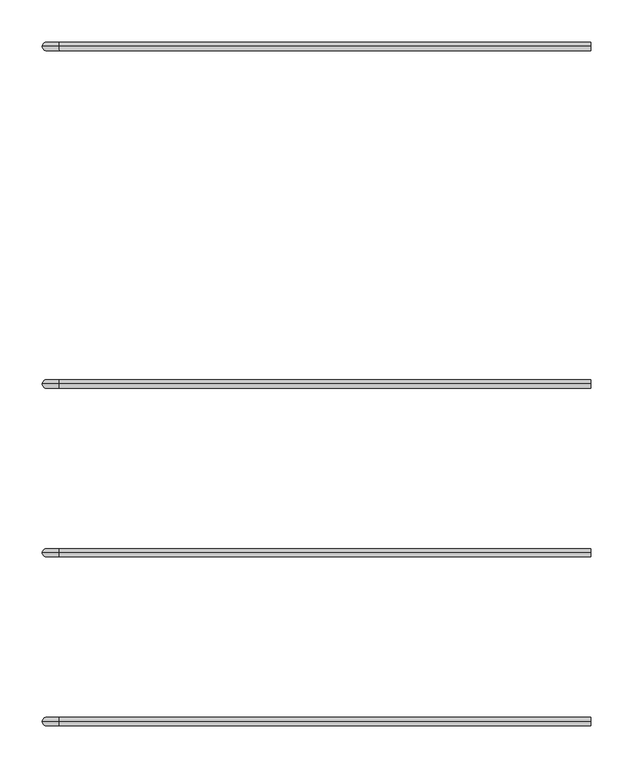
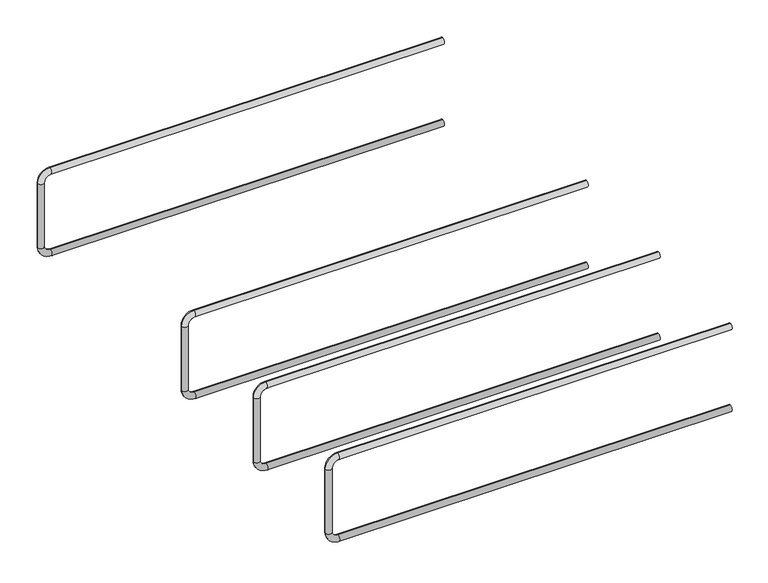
"""IFC4 building model written with IfcOpenShell, lengths in millimetres: fastener geometry, ACINOXplus_Typenreihe_Ux-Ox : UD+ S4."""

from ifc_helpers import new_model, si_unit, point, frame, origin, place, context, project, spatial, circle_curve, ellipse_curve, trimmed, source, transform, mapped, element, save
from ifc_brep_helpers import plane_surface, cylinder_surface, revolved_surface, advanced_brep


def fastener_9384deeb(model_context):
    return source(origin(), model_context, "Body", "AdvancedBrep", [
        advanced_brep(
        [(440.0, 0.0, -25.5), (440.0, 0.0, -35.5), (-190.0, 0.0, -25.5), (-190.0, 0.0, -35.5), (-200.0, 0.0, -45.5), (-210.0, 0.0, -45.5), (-210.0, 0.0, -154.5), (-200.0, 0.0, -154.5), (-190.0, 0.0, -164.5), (-190.0, 0.0, -174.5), (440.0, 0.0, -174.5), (440.0, 0.0, -164.5)],
        [
            (0, 1, circle_curve(frame((440.0, 0.0, -30.5), z_axis=(1.0, 0.0, 0.0), x_axis=(0.0, 0.0, -1.0)), 5.0)),
            (1, 0, circle_curve(frame((440.0, 0.0, -30.5), z_axis=(1.0, 0.0, 0.0), x_axis=(0.0, 0.0, -1.0)), 5.0)),
            (0, 2),
            (2, 3, circle_curve(frame((-190.0, 0.0, -30.5), z_axis=(1.0, 0.0, 0.0), x_axis=(0.0, 0.0, -1.0)), 5.0)),
            (3, 1),
            (3, 2, circle_curve(frame((-190.0, 0.0, -30.5), z_axis=(1.0, 0.0, 0.0), x_axis=(0.0, 0.0, -1.0)), 5.0)),
            (4, 3, circle_curve(frame((-190.0, 0.0, -45.5), z_axis=(0.0, 1.0, 0.0), x_axis=(0.0, 0.0, 1.0)), 10.0)),
            (2, 5, circle_curve(frame((-190.0, 0.0, -45.5), z_axis=(0.0, -1.0, 0.0), x_axis=(0.0, 0.0, 1.0)), 20.0)),
            (5, 4, circle_curve(frame((-205.0, 0.0, -45.5), z_axis=(0.0, 0.0, 1.0), x_axis=(1.0, 0.0, 0.0)), 5.0)),
            (4, 5, circle_curve(frame((-205.0, 0.0, -45.5), z_axis=(0.0, 0.0, 1.0), x_axis=(1.0, 0.0, 0.0)), 5.0)),
            (5, 6),
            (6, 7, circle_curve(frame((-205.0, 0.0, -154.5), z_axis=(0.0, 0.0, 1.0), x_axis=(1.0, 0.0, 0.0)), 5.0)),
            (7, 4),
            (7, 6, circle_curve(frame((-205.0, 0.0, -154.5), z_axis=(0.0, 0.0, 1.0), x_axis=(1.0, 0.0, 0.0)), 5.0)),
            (8, 7, circle_curve(frame((-190.0, 0.0, -154.5), z_axis=(0.0, 1.0, 0.0), x_axis=(-1.0, 0.0, 0.0)), 10.0)),
            (6, 9, circle_curve(frame((-190.0, 0.0, -154.5), z_axis=(0.0, -1.0, 0.0), x_axis=(-1.0, 0.0, 0.0)), 20.0)),
            (9, 8, circle_curve(frame((-190.0, 0.0, -169.5), z_axis=(-1.0, 0.0, 0.0), x_axis=(0.0, 0.0, 1.0)), 5.0)),
            (8, 9, circle_curve(frame((-190.0, 0.0, -169.5), z_axis=(-1.0, 0.0, 0.0), x_axis=(0.0, 0.0, 1.0)), 5.0)),
            (10, 11, circle_curve(frame((440.0, 0.0, -169.5), z_axis=(1.0, 0.0, 0.0), x_axis=(0.0, 0.0, 1.0)), 5.0)),
            (11, 10, circle_curve(frame((440.0, 0.0, -169.5), z_axis=(1.0, 0.0, 0.0), x_axis=(0.0, 0.0, 1.0)), 5.0)),
            (9, 10),
            (11, 8),
        ],
        [
            plane_surface(frame((440.0, 0.0, -30.5), z_axis=(1.0, 0.0, 0.0), x_axis=(0.0, -1.0, 0.0))),
            cylinder_surface(frame((440.0, 0.0, -30.5), z_axis=(1.0, 0.0, 0.0), x_axis=(0.0, 0.0, -1.0)), 5.0),
            revolved_surface(trimmed(ellipse_curve(frame((-190.0, 0.0, -30.5), z_axis=(1.0, 0.0, 0.0), x_axis=(0.0, 0.0, -1.0)), 5.0, 5.0), [point((-190.0, 0.0, -25.5))], [point((-190.0, 0.0, -35.5))], True, "CARTESIAN"), (-190.0, 0.0, -45.5), (0.0, -1.0, 0.0)),
            revolved_surface(trimmed(ellipse_curve(frame((-190.0, 0.0, -30.5), z_axis=(1.0, 0.0, 0.0), x_axis=(0.0, 0.0, -1.0)), 5.0, 5.0), [point((-190.0, 0.0, -35.5))], [point((-190.0, 0.0, -25.5))], True, "CARTESIAN"), (-190.0, 0.0, -45.5), (0.0, -1.0, 0.0)),
            cylinder_surface(frame((-205.0, 0.0, -45.5), z_axis=(0.0, 0.0, 1.0), x_axis=(1.0, 0.0, 0.0)), 5.0),
            revolved_surface(trimmed(ellipse_curve(frame((-205.0, 0.0, -154.5), z_axis=(0.0, 0.0, 1.0), x_axis=(1.0, 0.0, 0.0)), 5.0, 5.0), [point((-210.0, 0.0, -154.5))], [point((-200.0, 0.0, -154.5))], True, "CARTESIAN"), (-190.0, 0.0, -154.5), (0.0, -1.0, 0.0)),
            revolved_surface(trimmed(ellipse_curve(frame((-205.0, 0.0, -154.5), z_axis=(0.0, 0.0, 1.0), x_axis=(1.0, 0.0, 0.0)), 5.0, 5.0), [point((-200.0, 0.0, -154.5))], [point((-210.0, 0.0, -154.5))], True, "CARTESIAN"), (-190.0, 0.0, -154.5), (0.0, -1.0, 0.0)),
            plane_surface(frame((440.0, 0.0, -169.5), z_axis=(1.0, 0.0, 0.0), x_axis=(0.0, -1.0, 0.0))),
            cylinder_surface(frame((-190.0, 0.0, -169.5), z_axis=(-1.0, 0.0, 0.0), x_axis=(0.0, 0.0, 1.0)), 5.0),
        ],
        [
            (0, [[1, 2]]),
            (1, [[-1, 3, 4, 5]]),
            (1, [[-2, -5, 6, -3]]),
            (2, [[7, -4, 8, 9]]),
            (3, [[-8, -6, -7, 10]]),
            (4, [[-9, 11, 12, 13]]),
            (4, [[-10, -13, 14, -11]]),
            (5, [[15, -12, 16, 17]]),
            (6, [[-16, -14, -15, 18]]),
            (7, [[19, 20]]),
            (8, [[-17, 21, -20, 22]]),
            (8, [[-18, -22, -19, -21]]),
        ],
    ),
        advanced_brep(
        [(440.0, -200.0, -25.5), (440.0, -200.0, -35.5), (-190.0, -200.0, -25.5), (-190.0, -200.0, -35.5), (-200.0, -200.0, -45.5), (-210.0, -200.0, -45.5), (-210.0, -200.0, -154.5), (-200.0, -200.0, -154.5), (-190.0, -200.0, -164.5), (-190.0, -200.0, -174.5), (440.0, -200.0, -174.5), (440.0, -200.0, -164.5)],
        [
            (0, 1, circle_curve(frame((440.0, -200.0, -30.5), z_axis=(1.0, 0.0, 0.0), x_axis=(0.0, 0.0, -1.0)), 5.0)),
            (1, 0, circle_curve(frame((440.0, -200.0, -30.5), z_axis=(1.0, 0.0, 0.0), x_axis=(0.0, 0.0, -1.0)), 5.0)),
            (0, 2),
            (2, 3, circle_curve(frame((-190.0, -200.0, -30.5), z_axis=(1.0, 0.0, 0.0), x_axis=(0.0, 0.0, -1.0)), 5.0)),
            (3, 1),
            (3, 2, circle_curve(frame((-190.0, -200.0, -30.5), z_axis=(1.0, 0.0, 0.0), x_axis=(0.0, 0.0, -1.0)), 5.0)),
            (4, 3, circle_curve(frame((-190.0, -200.0, -45.5), z_axis=(0.0, 1.0, 0.0), x_axis=(0.0, 0.0, 1.0)), 10.0)),
            (2, 5, circle_curve(frame((-190.0, -200.0, -45.5), z_axis=(0.0, -1.0, 0.0), x_axis=(0.0, 0.0, 1.0)), 20.0)),
            (5, 4, circle_curve(frame((-205.0, -200.0, -45.5), z_axis=(0.0, 0.0, 1.0), x_axis=(1.0, 0.0, 0.0)), 5.0)),
            (4, 5, circle_curve(frame((-205.0, -200.0, -45.5), z_axis=(0.0, 0.0, 1.0), x_axis=(1.0, 0.0, 0.0)), 5.0)),
            (5, 6),
            (6, 7, circle_curve(frame((-205.0, -200.0, -154.5), z_axis=(0.0, 0.0, 1.0), x_axis=(1.0, 0.0, 0.0)), 5.0)),
            (7, 4),
            (7, 6, circle_curve(frame((-205.0, -200.0, -154.5), z_axis=(0.0, 0.0, 1.0), x_axis=(1.0, 0.0, 0.0)), 5.0)),
            (8, 7, circle_curve(frame((-190.0, -200.0, -154.5), z_axis=(0.0, 1.0, 0.0), x_axis=(-1.0, 0.0, 0.0)), 10.0)),
            (6, 9, circle_curve(frame((-190.0, -200.0, -154.5), z_axis=(0.0, -1.0, 0.0), x_axis=(-1.0, 0.0, 0.0)), 20.0)),
            (9, 8, circle_curve(frame((-190.0, -200.0, -169.5), z_axis=(-1.0, 0.0, 0.0), x_axis=(0.0, 0.0, 1.0)), 5.0)),
            (8, 9, circle_curve(frame((-190.0, -200.0, -169.5), z_axis=(-1.0, 0.0, 0.0), x_axis=(0.0, 0.0, 1.0)), 5.0)),
            (10, 11, circle_curve(frame((440.0, -200.0, -169.5), z_axis=(1.0, 0.0, 0.0), x_axis=(0.0, 0.0, 1.0)), 5.0)),
            (11, 10, circle_curve(frame((440.0, -200.0, -169.5), z_axis=(1.0, 0.0, 0.0), x_axis=(0.0, 0.0, 1.0)), 5.0)),
            (9, 10),
            (11, 8),
        ],
        [
            plane_surface(frame((440.0, -200.0, -30.5), z_axis=(1.0, 0.0, 0.0), x_axis=(0.0, -1.0, 0.0))),
            cylinder_surface(frame((440.0, -200.0, -30.5), z_axis=(1.0, 0.0, 0.0), x_axis=(0.0, 0.0, -1.0)), 5.0),
            revolved_surface(trimmed(ellipse_curve(frame((-190.0, -200.0, -30.5), z_axis=(1.0, 0.0, 0.0), x_axis=(0.0, 0.0, -1.0)), 5.0, 5.0), [point((-190.0, -200.0, -25.5))], [point((-190.0, -200.0, -35.5))], True, "CARTESIAN"), (-190.0, -200.0, -45.5), (0.0, -1.0, 0.0)),
            revolved_surface(trimmed(ellipse_curve(frame((-190.0, -200.0, -30.5), z_axis=(1.0, 0.0, 0.0), x_axis=(0.0, 0.0, -1.0)), 5.0, 5.0), [point((-190.0, -200.0, -35.5))], [point((-190.0, -200.0, -25.5))], True, "CARTESIAN"), (-190.0, -200.0, -45.5), (0.0, -1.0, 0.0)),
            cylinder_surface(frame((-205.0, -200.0, -45.5), z_axis=(0.0, 0.0, 1.0), x_axis=(1.0, 0.0, 0.0)), 5.0),
            revolved_surface(trimmed(ellipse_curve(frame((-205.0, -200.0, -154.5), z_axis=(0.0, 0.0, 1.0), x_axis=(1.0, 0.0, 0.0)), 5.0, 5.0), [point((-210.0, -200.0, -154.5))], [point((-200.0, -200.0, -154.5))], True, "CARTESIAN"), (-190.0, -200.0, -154.5), (0.0, -1.0, 0.0)),
            revolved_surface(trimmed(ellipse_curve(frame((-205.0, -200.0, -154.5), z_axis=(0.0, 0.0, 1.0), x_axis=(1.0, 0.0, 0.0)), 5.0, 5.0), [point((-200.0, -200.0, -154.5))], [point((-210.0, -200.0, -154.5))], True, "CARTESIAN"), (-190.0, -200.0, -154.5), (0.0, -1.0, 0.0)),
            plane_surface(frame((440.0, -200.0, -169.5), z_axis=(1.0, 0.0, 0.0), x_axis=(0.0, -1.0, 0.0))),
            cylinder_surface(frame((-190.0, -200.0, -169.5), z_axis=(-1.0, 0.0, 0.0), x_axis=(0.0, 0.0, 1.0)), 5.0),
        ],
        [
            (0, [[1, 2]]),
            (1, [[-1, 3, 4, 5]]),
            (1, [[-2, -5, 6, -3]]),
            (2, [[7, -4, 8, 9]]),
            (3, [[-8, -6, -7, 10]]),
            (4, [[-9, 11, 12, 13]]),
            (4, [[-10, -13, 14, -11]]),
            (5, [[15, -12, 16, 17]]),
            (6, [[-16, -14, -15, 18]]),
            (7, [[19, 20]]),
            (8, [[-17, 21, -20, 22]]),
            (8, [[-18, -22, -19, -21]]),
        ],
    ),
        advanced_brep(
        [(440.0, 400.0, -25.5), (440.0, 400.0, -35.5), (-190.0, 400.0, -25.5), (-190.0, 400.0, -35.5), (-200.0, 400.0, -45.5), (-210.0, 400.0, -45.5), (-210.0, 400.0, -154.5), (-200.0, 400.0, -154.5), (-190.0, 400.0, -164.5), (-190.0, 400.0, -174.5), (440.0, 400.0, -174.5), (440.0, 400.0, -164.5)],
        [
            (0, 1, circle_curve(frame((440.0, 400.0, -30.5), z_axis=(1.0, 0.0, 0.0), x_axis=(0.0, 0.0, -1.0)), 5.0)),
            (1, 0, circle_curve(frame((440.0, 400.0, -30.5), z_axis=(1.0, 0.0, 0.0), x_axis=(0.0, 0.0, -1.0)), 5.0)),
            (0, 2),
            (2, 3, circle_curve(frame((-190.0, 400.0, -30.5), z_axis=(1.0, 0.0, 0.0), x_axis=(0.0, 0.0, -1.0)), 5.0)),
            (3, 1),
            (3, 2, circle_curve(frame((-190.0, 400.0, -30.5), z_axis=(1.0, 0.0, 0.0), x_axis=(0.0, 0.0, -1.0)), 5.0)),
            (4, 3, circle_curve(frame((-190.0, 400.0, -45.5), z_axis=(0.0, 1.0, 0.0), x_axis=(0.0, 0.0, 1.0)), 10.0)),
            (2, 5, circle_curve(frame((-190.0, 400.0, -45.5), z_axis=(0.0, -1.0, 0.0), x_axis=(0.0, 0.0, 1.0)), 20.0)),
            (5, 4, circle_curve(frame((-205.0, 400.0, -45.5), z_axis=(0.0, 0.0, 1.0), x_axis=(1.0, 0.0, 0.0)), 5.0)),
            (4, 5, circle_curve(frame((-205.0, 400.0, -45.5), z_axis=(0.0, 0.0, 1.0), x_axis=(1.0, 0.0, 0.0)), 5.0)),
            (5, 6),
            (6, 7, circle_curve(frame((-205.0, 400.0, -154.5), z_axis=(0.0, 0.0, 1.0), x_axis=(1.0, 0.0, 0.0)), 5.0)),
            (7, 4),
            (7, 6, circle_curve(frame((-205.0, 400.0, -154.5), z_axis=(0.0, 0.0, 1.0), x_axis=(1.0, 0.0, 0.0)), 5.0)),
            (8, 7, circle_curve(frame((-190.0, 400.0, -154.5), z_axis=(0.0, 1.0, 0.0), x_axis=(-1.0, 0.0, 0.0)), 10.0)),
            (6, 9, circle_curve(frame((-190.0, 400.0, -154.5), z_axis=(0.0, -1.0, 0.0), x_axis=(-1.0, 0.0, 0.0)), 20.0)),
            (9, 8, circle_curve(frame((-190.0, 400.0, -169.5), z_axis=(-1.0, 0.0, 0.0), x_axis=(0.0, 0.0, 1.0)), 5.0)),
            (8, 9, circle_curve(frame((-190.0, 400.0, -169.5), z_axis=(-1.0, 0.0, 0.0), x_axis=(0.0, 0.0, 1.0)), 5.0)),
            (10, 11, circle_curve(frame((440.0, 400.0, -169.5), z_axis=(1.0, 0.0, 0.0), x_axis=(0.0, 0.0, 1.0)), 5.0)),
            (11, 10, circle_curve(frame((440.0, 400.0, -169.5), z_axis=(1.0, 0.0, 0.0), x_axis=(0.0, 0.0, 1.0)), 5.0)),
            (9, 10),
            (11, 8),
        ],
        [
            plane_surface(frame((440.0, 400.0, -30.5), z_axis=(1.0, 0.0, 0.0), x_axis=(0.0, -1.0, 0.0))),
            cylinder_surface(frame((440.0, 400.0, -30.5), z_axis=(1.0, 0.0, 0.0), x_axis=(0.0, 0.0, -1.0)), 5.0),
            revolved_surface(trimmed(ellipse_curve(frame((-190.0, 400.0, -30.5), z_axis=(1.0, 0.0, 0.0), x_axis=(0.0, 0.0, -1.0)), 5.0, 5.0), [point((-190.0, 400.0, -25.5))], [point((-190.0, 400.0, -35.5))], True, "CARTESIAN"), (-190.0, 400.0, -45.5), (0.0, -1.0, 0.0)),
            revolved_surface(trimmed(ellipse_curve(frame((-190.0, 400.0, -30.5), z_axis=(1.0, 0.0, 0.0), x_axis=(0.0, 0.0, -1.0)), 5.0, 5.0), [point((-190.0, 400.0, -35.5))], [point((-190.0, 400.0, -25.5))], True, "CARTESIAN"), (-190.0, 400.0, -45.5), (0.0, -1.0, 0.0)),
            cylinder_surface(frame((-205.0, 400.0, -45.5), z_axis=(0.0, 0.0, 1.0), x_axis=(1.0, 0.0, 0.0)), 5.0),
            revolved_surface(trimmed(ellipse_curve(frame((-205.0, 400.0, -154.5), z_axis=(0.0, 0.0, 1.0), x_axis=(1.0, 0.0, 0.0)), 5.0, 5.0), [point((-210.0, 400.0, -154.5))], [point((-200.0, 400.0, -154.5))], True, "CARTESIAN"), (-190.0, 400.0, -154.5), (0.0, -1.0, 0.0)),
            revolved_surface(trimmed(ellipse_curve(frame((-205.0, 400.0, -154.5), z_axis=(0.0, 0.0, 1.0), x_axis=(1.0, 0.0, 0.0)), 5.0, 5.0), [point((-200.0, 400.0, -154.5))], [point((-210.0, 400.0, -154.5))], True, "CARTESIAN"), (-190.0, 400.0, -154.5), (0.0, -1.0, 0.0)),
            plane_surface(frame((440.0, 400.0, -169.5), z_axis=(1.0, 0.0, 0.0), x_axis=(0.0, -1.0, 0.0))),
            cylinder_surface(frame((-190.0, 400.0, -169.5), z_axis=(-1.0, 0.0, 0.0), x_axis=(0.0, 0.0, 1.0)), 5.0),
        ],
        [
            (0, [[1, 2]]),
            (1, [[-1, 3, 4, 5]]),
            (1, [[-2, -5, 6, -3]]),
            (2, [[7, -4, 8, 9]]),
            (3, [[-8, -6, -7, 10]]),
            (4, [[-9, 11, 12, 13]]),
            (4, [[-10, -13, 14, -11]]),
            (5, [[15, -12, 16, 17]]),
            (6, [[-16, -14, -15, 18]]),
            (7, [[19, 20]]),
            (8, [[-17, 21, -20, 22]]),
            (8, [[-18, -22, -19, -21]]),
        ],
    ),
        advanced_brep(
        [(440.0, -400.0, -25.5), (440.0, -400.0, -35.5), (-190.0, -400.0, -25.5), (-190.0, -400.0, -35.5), (-200.0, -400.0, -45.5), (-210.0, -400.0, -45.5), (-210.0, -400.0, -154.5), (-200.0, -400.0, -154.5), (-190.0, -400.0, -164.5), (-190.0, -400.0, -174.5), (440.0, -400.0, -174.5), (440.0, -400.0, -164.5)],
        [
            (0, 1, circle_curve(frame((440.0, -400.0, -30.5), z_axis=(1.0, 0.0, 0.0), x_axis=(0.0, 0.0, -1.0)), 5.0)),
            (1, 0, circle_curve(frame((440.0, -400.0, -30.5), z_axis=(1.0, 0.0, 0.0), x_axis=(0.0, 0.0, -1.0)), 5.0)),
            (0, 2),
            (2, 3, circle_curve(frame((-190.0, -400.0, -30.5), z_axis=(1.0, 0.0, 0.0), x_axis=(0.0, 0.0, -1.0)), 5.0)),
            (3, 1),
            (3, 2, circle_curve(frame((-190.0, -400.0, -30.5), z_axis=(1.0, 0.0, 0.0), x_axis=(0.0, 0.0, -1.0)), 5.0)),
            (4, 3, circle_curve(frame((-190.0, -400.0, -45.5), z_axis=(0.0, 1.0, 0.0), x_axis=(0.0, 0.0, 1.0)), 10.0)),
            (2, 5, circle_curve(frame((-190.0, -400.0, -45.5), z_axis=(0.0, -1.0, 0.0), x_axis=(0.0, 0.0, 1.0)), 20.0)),
            (5, 4, circle_curve(frame((-205.0, -400.0, -45.5), z_axis=(0.0, 0.0, 1.0), x_axis=(1.0, 0.0, 0.0)), 5.0)),
            (4, 5, circle_curve(frame((-205.0, -400.0, -45.5), z_axis=(0.0, 0.0, 1.0), x_axis=(1.0, 0.0, 0.0)), 5.0)),
            (5, 6),
            (6, 7, circle_curve(frame((-205.0, -400.0, -154.5), z_axis=(0.0, 0.0, 1.0), x_axis=(1.0, 0.0, 0.0)), 5.0)),
            (7, 4),
            (7, 6, circle_curve(frame((-205.0, -400.0, -154.5), z_axis=(0.0, 0.0, 1.0), x_axis=(1.0, 0.0, 0.0)), 5.0)),
            (8, 7, circle_curve(frame((-190.0, -400.0, -154.5), z_axis=(0.0, 1.0, 0.0), x_axis=(-1.0, 0.0, 0.0)), 10.0)),
            (6, 9, circle_curve(frame((-190.0, -400.0, -154.5), z_axis=(0.0, -1.0, 0.0), x_axis=(-1.0, 0.0, 0.0)), 20.0)),
            (9, 8, circle_curve(frame((-190.0, -400.0, -169.5), z_axis=(-1.0, 0.0, 0.0), x_axis=(0.0, 0.0, 1.0)), 5.0)),
            (8, 9, circle_curve(frame((-190.0, -400.0, -169.5), z_axis=(-1.0, 0.0, 0.0), x_axis=(0.0, 0.0, 1.0)), 5.0)),
            (10, 11, circle_curve(frame((440.0, -400.0, -169.5), z_axis=(1.0, 0.0, 0.0), x_axis=(0.0, 0.0, 1.0)), 5.0)),
            (11, 10, circle_curve(frame((440.0, -400.0, -169.5), z_axis=(1.0, 0.0, 0.0), x_axis=(0.0, 0.0, 1.0)), 5.0)),
            (9, 10),
            (11, 8),
        ],
        [
            plane_surface(frame((440.0, -400.0, -30.5), z_axis=(1.0, 0.0, 0.0), x_axis=(0.0, -1.0, 0.0))),
            cylinder_surface(frame((440.0, -400.0, -30.5), z_axis=(1.0, 0.0, 0.0), x_axis=(0.0, 0.0, -1.0)), 5.0),
            revolved_surface(trimmed(ellipse_curve(frame((-190.0, -400.0, -30.5), z_axis=(1.0, 0.0, 0.0), x_axis=(0.0, 0.0, -1.0)), 5.0, 5.0), [point((-190.0, -400.0, -25.5))], [point((-190.0, -400.0, -35.5))], True, "CARTESIAN"), (-190.0, -400.0, -45.5), (0.0, -1.0, 0.0)),
            revolved_surface(trimmed(ellipse_curve(frame((-190.0, -400.0, -30.5), z_axis=(1.0, 0.0, 0.0), x_axis=(0.0, 0.0, -1.0)), 5.0, 5.0), [point((-190.0, -400.0, -35.5))], [point((-190.0, -400.0, -25.5))], True, "CARTESIAN"), (-190.0, -400.0, -45.5), (0.0, -1.0, 0.0)),
            cylinder_surface(frame((-205.0, -400.0, -45.5), z_axis=(0.0, 0.0, 1.0), x_axis=(1.0, 0.0, 0.0)), 5.0),
            revolved_surface(trimmed(ellipse_curve(frame((-205.0, -400.0, -154.5), z_axis=(0.0, 0.0, 1.0), x_axis=(1.0, 0.0, 0.0)), 5.0, 5.0), [point((-210.0, -400.0, -154.5))], [point((-200.0, -400.0, -154.5))], True, "CARTESIAN"), (-190.0, -400.0, -154.5), (0.0, -1.0, 0.0)),
            revolved_surface(trimmed(ellipse_curve(frame((-205.0, -400.0, -154.5), z_axis=(0.0, 0.0, 1.0), x_axis=(1.0, 0.0, 0.0)), 5.0, 5.0), [point((-200.0, -400.0, -154.5))], [point((-210.0, -400.0, -154.5))], True, "CARTESIAN"), (-190.0, -400.0, -154.5), (0.0, -1.0, 0.0)),
            plane_surface(frame((440.0, -400.0, -169.5), z_axis=(1.0, 0.0, 0.0), x_axis=(0.0, -1.0, 0.0))),
            cylinder_surface(frame((-190.0, -400.0, -169.5), z_axis=(-1.0, 0.0, 0.0), x_axis=(0.0, 0.0, 1.0)), 5.0),
        ],
        [
            (0, [[1, 2]]),
            (1, [[-1, 3, 4, 5]]),
            (1, [[-2, -5, 6, -3]]),
            (2, [[7, -4, 8, 9]]),
            (3, [[-8, -6, -7, 10]]),
            (4, [[-9, 11, 12, 13]]),
            (4, [[-10, -13, 14, -11]]),
            (5, [[15, -12, 16, 17]]),
            (6, [[-16, -14, -15, 18]]),
            (7, [[19, 20]]),
            (8, [[-17, 21, -20, 22]]),
            (8, [[-18, -22, -19, -21]]),
        ],
    ),
    ])


if __name__ == "__main__":
    model = new_model("IFC4")
    model_context = context("Model", 3, world=origin())
    ifc_project = project(units=[si_unit("LENGTHUNIT", "METRE", prefix="MILLI")], contexts=[model_context])
    site = spatial("IfcSite", under=ifc_project)
    building = spatial("IfcBuilding", under=site)
    placement = place(None, origin())
    fastener_shape = fastener_9384deeb(model_context)
    element("IfcFastener", 1, ObjectType="ACINOXplus_Typenreihe_Ux-Ox : UD+ S4", at=placement, inside=building, context=model_context, shape_type="MappedRepresentation", body=[
        mapped(fastener_shape, transform((0.0, 0.0, 0.0), x_axis=(1.0, 0.0, 0.0), y_axis=(0.0, 1.0, 0.0), z_axis=(0.0, 0.0, 1.0))),
    ])
    save(model, "model.ifc")
